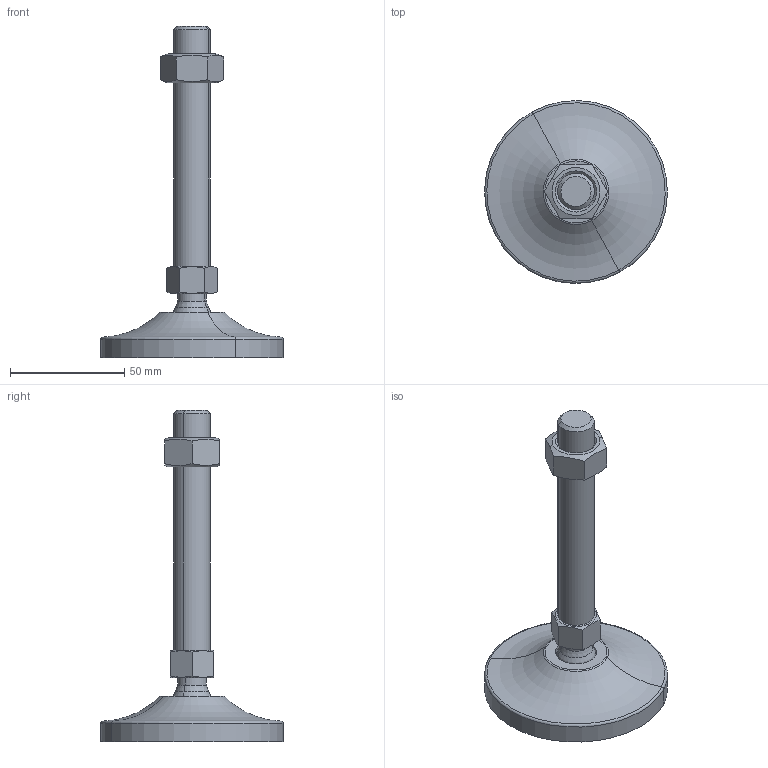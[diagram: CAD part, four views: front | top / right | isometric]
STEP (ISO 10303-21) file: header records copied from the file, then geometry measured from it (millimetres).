
FILE_DESCRIPTION(('CATIA V5 STEP Exchange'),'2;1');
FILE_NAME('C:\Users\ALI OZGUN\Desktop\alhan\saplama2\560801615.stp','2017-09-21T10:34:11+00:00',('none'),('none'),'CATIA Version 5 Release 21 GA (IN-10)','CATIA V5 STEP AP203','none');
FILE_SCHEMA(('CONFIG_CONTROL_DESIGN'));
Length unit declared in the file: millimetre
Products named in the file (1): 560801615
Bounding box: 79.98 x 79.98 x 145 mm (x, y, z)
Volume: 73027 mm3; surface area: 23683.4 mm2
Topology: 3 solids, 3 shells, 60 faces, 136 edges, 83 vertices
Faces by surface type: plane 20, cone 16, cylinder 14, torus 6, revolution 2, sphere 2
Entity records: 1852 total; most frequent: CARTESIAN_POINT 610, ORIENTED_EDGE 268, DIRECTION 186, EDGE_CURVE 134, AXIS2_PLACEMENT_3D 100, VERTEX_POINT 83, EDGE_LOOP 67, ADVANCED_FACE 60
